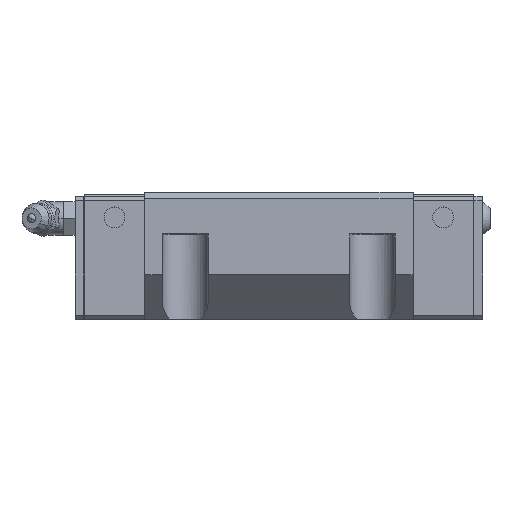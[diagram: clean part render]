
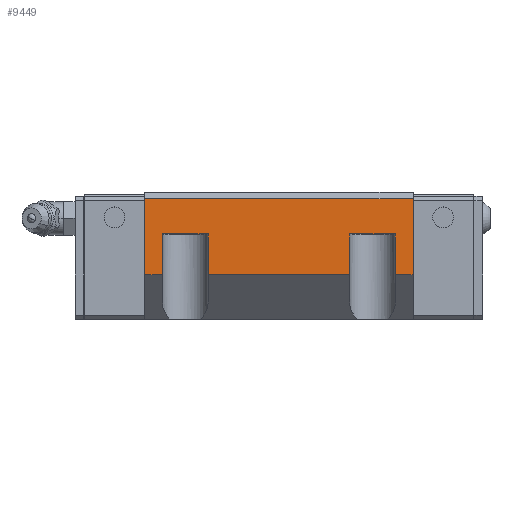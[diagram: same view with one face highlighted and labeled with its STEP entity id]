
A CAD part, top view. The second image highlights one B-rep face of the part: STEP entity #9449.
In plain terms, the highlighted planar face has unit normal (0, 0, 1).
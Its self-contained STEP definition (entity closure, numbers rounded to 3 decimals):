
#66 = LINE ( 'NONE', #6763, #142 ) ;
#142 = VECTOR ( 'NONE', #2470, 1000. ) ;
#185 = ORIENTED_EDGE ( 'NONE', *, *, #1573, .T. ) ;
#188 = VECTOR ( 'NONE', #8499, 1000. ) ;
#261 = CARTESIAN_POINT ( 'NONE',  ( -28., -7.438, 35. ) ) ;
#273 = CARTESIAN_POINT ( 'NONE',  ( 32.25, 10.9, 35. ) ) ;
#422 = CARTESIAN_POINT ( 'NONE',  ( -17., -7.438, 35. ) ) ;
#473 = VERTEX_POINT ( 'NONE', #492 ) ;
#492 = CARTESIAN_POINT ( 'NONE',  ( 32.25, -7.438, 35. ) ) ;
#895 = ORIENTED_EDGE ( 'NONE', *, *, #3607, .T. ) ;
#1022 = VERTEX_POINT ( 'NONE', #3866 ) ;
#1090 = CARTESIAN_POINT ( 'NONE',  ( -17., 2.4, 35. ) ) ;
#1172 = EDGE_CURVE ( 'NONE', #4375, #3886, #4281, .T. ) ;
#1237 = DIRECTION ( 'NONE',  ( 1., 0., 0. ) ) ;
#1327 = DIRECTION ( 'NONE',  ( 0., -1., 0. ) ) ;
#1560 = CARTESIAN_POINT ( 'NONE',  ( -17., 2.4, 35. ) ) ;
#1573 = EDGE_CURVE ( 'NONE', #4994, #473, #9628, .T. ) ;
#1655 = CARTESIAN_POINT ( 'NONE',  ( -32.25, -7.438, 35. ) ) ;
#1726 = LINE ( 'NONE', #8278, #10283 ) ;
#1782 = CARTESIAN_POINT ( 'NONE',  ( -17., -7.438, 35. ) ) ;
#1887 = VERTEX_POINT ( 'NONE', #9251 ) ;
#1952 = ORIENTED_EDGE ( 'NONE', *, *, #2214, .F. ) ;
#2214 = EDGE_CURVE ( 'NONE', #1887, #473, #5945, .T. ) ;
#2387 = VECTOR ( 'NONE', #1237, 1000. ) ;
#2470 = DIRECTION ( 'NONE',  ( 1., 0., 0. ) ) ;
#2490 = ORIENTED_EDGE ( 'NONE', *, *, #10338, .T. ) ;
#2553 = EDGE_CURVE ( 'NONE', #8039, #5804, #7930, .T. ) ;
#2953 = CARTESIAN_POINT ( 'NONE',  ( -32.25, 10.9, 35. ) ) ;
#3123 = CARTESIAN_POINT ( 'NONE',  ( 28., -7.438, 35. ) ) ;
#3338 = EDGE_CURVE ( 'NONE', #5072, #3886, #4358, .T. ) ;
#3462 = CARTESIAN_POINT ( 'NONE',  ( -17., -7.438, 35. ) ) ;
#3538 = LINE ( 'NONE', #7585, #2387 ) ;
#3607 = EDGE_CURVE ( 'NONE', #5812, #1022, #9757, .T. ) ;
#3866 = CARTESIAN_POINT ( 'NONE',  ( -32.25, -7.438, 35. ) ) ;
#3886 = VERTEX_POINT ( 'NONE', #5557 ) ;
#3975 = CARTESIAN_POINT ( 'NONE',  ( 28., -7.438, 35. ) ) ;
#4020 = VECTOR ( 'NONE', #6537, 1000. ) ;
#4129 = DIRECTION ( 'NONE',  ( 0., 1., 0. ) ) ;
#4173 = CARTESIAN_POINT ( 'NONE',  ( 17., -7.438, 35. ) ) ;
#4188 = DIRECTION ( 'NONE',  ( 0., 1., 0. ) ) ;
#4281 = LINE ( 'NONE', #1090, #4020 ) ;
#4321 = ORIENTED_EDGE ( 'NONE', *, *, #4586, .T. ) ;
#4358 = LINE ( 'NONE', #6152, #8067 ) ;
#4375 = VERTEX_POINT ( 'NONE', #1560 ) ;
#4387 = VECTOR ( 'NONE', #5828, 1000. ) ;
#4398 = LINE ( 'NONE', #422, #8083 ) ;
#4449 = DIRECTION ( 'NONE',  ( 0., 1., 0. ) ) ;
#4586 = EDGE_CURVE ( 'NONE', #8838, #9791, #3538, .T. ) ;
#4994 = VERTEX_POINT ( 'NONE', #3975 ) ;
#5036 = LINE ( 'NONE', #5096, #6771 ) ;
#5072 = VERTEX_POINT ( 'NONE', #261 ) ;
#5096 = CARTESIAN_POINT ( 'NONE',  ( 17., -7.438, 35. ) ) ;
#5180 = EDGE_CURVE ( 'NONE', #8039, #4375, #4398, .T. ) ;
#5368 = VECTOR ( 'NONE', #6234, 1000. ) ;
#5422 = FACE_OUTER_BOUND ( 'NONE', #8896, .T. ) ;
#5557 = CARTESIAN_POINT ( 'NONE',  ( -28., 2.4, 35. ) ) ;
#5615 = DIRECTION ( 'NONE',  ( 1., 0., 0. ) ) ;
#5759 = VECTOR ( 'NONE', #9574, 1000. ) ;
#5804 = VERTEX_POINT ( 'NONE', #4173 ) ;
#5809 = ORIENTED_EDGE ( 'NONE', *, *, #3338, .T. ) ;
#5812 = VERTEX_POINT ( 'NONE', #7384 ) ;
#5828 = DIRECTION ( 'NONE',  ( 0., -1., 0. ) ) ;
#5945 = LINE ( 'NONE', #273, #188 ) ;
#6044 = PLANE ( 'NONE',  #7773 ) ;
#6152 = CARTESIAN_POINT ( 'NONE',  ( -28., -7.438, 35. ) ) ;
#6234 = DIRECTION ( 'NONE',  ( 1., 0., 0. ) ) ;
#6537 = DIRECTION ( 'NONE',  ( -1., 0., 0. ) ) ;
#6763 = CARTESIAN_POINT ( 'NONE',  ( -32.25, 10.9, 35. ) ) ;
#6771 = VECTOR ( 'NONE', #4188, 1000. ) ;
#6951 = EDGE_CURVE ( 'NONE', #5812, #1887, #66, .T. ) ;
#7028 = CARTESIAN_POINT ( 'NONE',  ( 28., 2.4, 35. ) ) ;
#7070 = LINE ( 'NONE', #1655, #5368 ) ;
#7384 = CARTESIAN_POINT ( 'NONE',  ( -32.25, 10.9, 35. ) ) ;
#7579 = ORIENTED_EDGE ( 'NONE', *, *, #1172, .F. ) ;
#7585 = CARTESIAN_POINT ( 'NONE',  ( 17., 2.4, 35. ) ) ;
#7773 = AXIS2_PLACEMENT_3D ( 'NONE', #2953, #8455, #1327 ) ;
#7930 = LINE ( 'NONE', #1782, #9570 ) ;
#7954 = ORIENTED_EDGE ( 'NONE', *, *, #10096, .F. ) ;
#8039 = VERTEX_POINT ( 'NONE', #3462 ) ;
#8067 = VECTOR ( 'NONE', #9295, 1000. ) ;
#8083 = VECTOR ( 'NONE', #4449, 1000. ) ;
#8088 = CARTESIAN_POINT ( 'NONE',  ( -32.25, 10.9, 35. ) ) ;
#8200 = CARTESIAN_POINT ( 'NONE',  ( 17., 2.4, 35. ) ) ;
#8267 = ORIENTED_EDGE ( 'NONE', *, *, #9732, .T. ) ;
#8278 = CARTESIAN_POINT ( 'NONE',  ( 28., -7.438, 35. ) ) ;
#8455 = DIRECTION ( 'NONE',  ( 0., 0., 1. ) ) ;
#8499 = DIRECTION ( 'NONE',  ( 0., -1., 0. ) ) ;
#8831 = ORIENTED_EDGE ( 'NONE', *, *, #5180, .F. ) ;
#8838 = VERTEX_POINT ( 'NONE', #8200 ) ;
#8896 = EDGE_LOOP ( 'NONE', ( #7579, #8831, #8979, #8267, #4321, #7954, #185, #1952, #9913, #895, #2490, #5809 ) ) ;
#8979 = ORIENTED_EDGE ( 'NONE', *, *, #2553, .T. ) ;
#9251 = CARTESIAN_POINT ( 'NONE',  ( 32.25, 10.9, 35. ) ) ;
#9295 = DIRECTION ( 'NONE',  ( 0., 1., 0. ) ) ;
#9449 = ADVANCED_FACE ( 'NONE', ( #5422 ), #6044, .T. ) ;
#9570 = VECTOR ( 'NONE', #5615, 1000. ) ;
#9574 = DIRECTION ( 'NONE',  ( 1., 0., 0. ) ) ;
#9628 = LINE ( 'NONE', #3123, #5759 ) ;
#9732 = EDGE_CURVE ( 'NONE', #5804, #8838, #5036, .T. ) ;
#9757 = LINE ( 'NONE', #8088, #4387 ) ;
#9791 = VERTEX_POINT ( 'NONE', #7028 ) ;
#9913 = ORIENTED_EDGE ( 'NONE', *, *, #6951, .F. ) ;
#10096 = EDGE_CURVE ( 'NONE', #4994, #9791, #1726, .T. ) ;
#10283 = VECTOR ( 'NONE', #4129, 1000. ) ;
#10338 = EDGE_CURVE ( 'NONE', #1022, #5072, #7070, .T. ) ;
